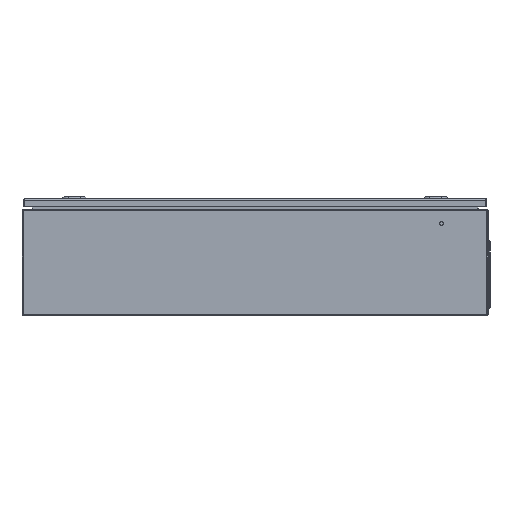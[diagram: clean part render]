
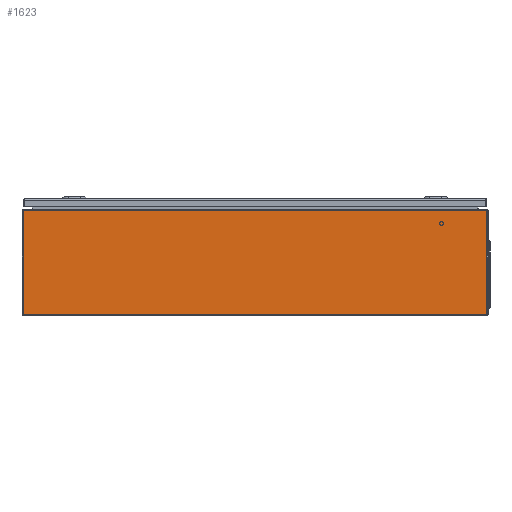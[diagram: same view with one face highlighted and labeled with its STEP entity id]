
A CAD part, left-side view. The second image highlights one B-rep face of the part: STEP entity #1623.
In plain terms, the highlighted planar face has unit normal (-1, 0, 0).
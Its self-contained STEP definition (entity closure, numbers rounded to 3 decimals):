
#1394 = CARTESIAN_POINT ( 'NONE',  ( -300., -497.5, 2.35 ) ) ;
#1550 = EDGE_CURVE ( 'NONE', #7668, #20364, #5853, .T. ) ;
#1623 = ADVANCED_FACE ( 'NONE', ( #9902 ), #7810, .F. ) ;
#3353 = DIRECTION ( 'NONE',  ( 0., 0., -1. ) ) ;
#3394 = EDGE_CURVE ( 'NONE', #10670, #17103, #5943, .T. ) ;
#3513 = VECTOR ( 'NONE', #7924, 1000. ) ;
#5262 = EDGE_LOOP ( 'NONE', ( #17295, #23549, #24821, #12892 ) ) ;
#5712 = DIRECTION ( 'NONE',  ( 1., 0., 0. ) ) ;
#5853 = LINE ( 'NONE', #12294, #6233 ) ;
#5943 = LINE ( 'NONE', #26983, #13984 ) ;
#6118 = CARTESIAN_POINT ( 'NONE',  ( -300., 497.5, 2.35 ) ) ;
#6233 = VECTOR ( 'NONE', #3353, 1000. ) ;
#7668 = VERTEX_POINT ( 'NONE', #9319 ) ;
#7810 = PLANE ( 'NONE',  #21379 ) ;
#7866 = EDGE_CURVE ( 'NONE', #7668, #17103, #22963, .T. ) ;
#7924 = DIRECTION ( 'NONE',  ( 0., -1., 0. ) ) ;
#8342 = CARTESIAN_POINT ( 'NONE',  ( -300., -497.5, 224.5 ) ) ;
#9319 = CARTESIAN_POINT ( 'NONE',  ( -300., 497.5, 224.5 ) ) ;
#9902 = FACE_OUTER_BOUND ( 'NONE', #5262, .T. ) ;
#10670 = VERTEX_POINT ( 'NONE', #1394 ) ;
#10903 = DIRECTION ( 'NONE',  ( 0., -1., 0. ) ) ;
#12294 = CARTESIAN_POINT ( 'NONE',  ( -300., 497.5, 1.5 ) ) ;
#12892 = ORIENTED_EDGE ( 'NONE', *, *, #7866, .F. ) ;
#13272 = CARTESIAN_POINT ( 'NONE',  ( -300., -500., 2.35 ) ) ;
#13984 = VECTOR ( 'NONE', #18774, 1000. ) ;
#17103 = VERTEX_POINT ( 'NONE', #8342 ) ;
#17295 = ORIENTED_EDGE ( 'NONE', *, *, #1550, .T. ) ;
#18525 = CARTESIAN_POINT ( 'NONE',  ( -300., 500., 224.5 ) ) ;
#18597 = EDGE_CURVE ( 'NONE', #20364, #10670, #19533, .T. ) ;
#18774 = DIRECTION ( 'NONE',  ( 0., 0., 1. ) ) ;
#19533 = LINE ( 'NONE', #13272, #21416 ) ;
#20364 = VERTEX_POINT ( 'NONE', #6118 ) ;
#21379 = AXIS2_PLACEMENT_3D ( 'NONE', #24804, #5712, #27034 ) ;
#21416 = VECTOR ( 'NONE', #10903, 1000. ) ;
#22963 = LINE ( 'NONE', #18525, #3513 ) ;
#23549 = ORIENTED_EDGE ( 'NONE', *, *, #18597, .T. ) ;
#24804 = CARTESIAN_POINT ( 'NONE',  ( -300., -500., 1.5 ) ) ;
#24821 = ORIENTED_EDGE ( 'NONE', *, *, #3394, .T. ) ;
#26983 = CARTESIAN_POINT ( 'NONE',  ( -300., -497.5, 1.5 ) ) ;
#27034 = DIRECTION ( 'NONE',  ( 0., 0., -1. ) ) ;
